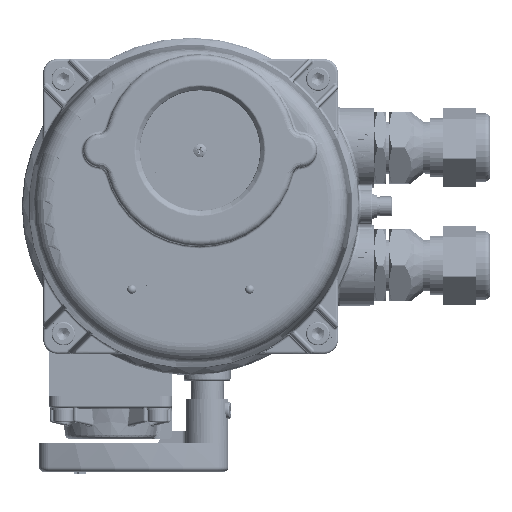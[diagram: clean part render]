
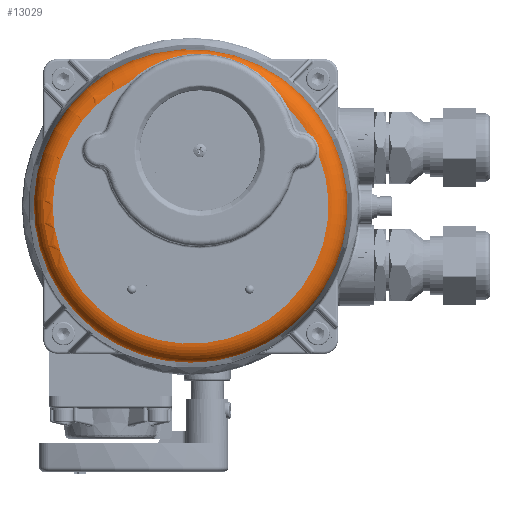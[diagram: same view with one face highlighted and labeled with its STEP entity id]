
A CAD part, top view. The second image highlights one B-rep face of the part: STEP entity #13029.
In plain terms, the highlighted toroidal (fillet/blend) face has major radius 58.491 mm and minor radius 8 mm.
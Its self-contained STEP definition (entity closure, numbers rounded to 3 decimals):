
#13029=ADVANCED_FACE('',(#57665,#57667),#57669,.T.);
#57665=FACE_BOUND('',#57666,.T.);
#57666=EDGE_LOOP('',(#103232,#103233,#103234,#103235,#103236));
#57667=FACE_BOUND('',#57668,.T.);
#57668=EDGE_LOOP('',(#103237,#103238,#103239));
#57669=TOROIDAL_SURFACE('',#57670,58.491,8.);
#57670=AXIS2_PLACEMENT_3D('',#57671,#57672,#57673);
#57671=CARTESIAN_POINT('',(-348.624,-37.619,68.195));
#57672=DIRECTION('',(0.,0.,1.));
#57673=DIRECTION('',(1.,0.,0.));
#103232=ORIENTED_EDGE('',*,*,#127742,.T.);
#103233=ORIENTED_EDGE('',*,*,#127741,.T.);
#103234=ORIENTED_EDGE('',*,*,#127727,.F.);
#103235=ORIENTED_EDGE('',*,*,#127779,.T.);
#103236=ORIENTED_EDGE('',*,*,#127717,.F.);
#103237=ORIENTED_EDGE('',*,*,#127780,.T.);
#103238=ORIENTED_EDGE('',*,*,#127781,.T.);
#103239=ORIENTED_EDGE('',*,*,#127782,.T.);
#127717=EDGE_CURVE('',#156490,#156493,#156494,.T.);
#127727=EDGE_CURVE('',#156503,#156506,#156508,.T.);
#127741=EDGE_CURVE('',#156528,#156506,#156529,.T.);
#127742=EDGE_CURVE('',#156490,#156528,#156530,.T.);
#127779=EDGE_CURVE('',#156503,#156493,#156603,.T.);
#127780=EDGE_CURVE('',#156604,#156605,#156606,.T.);
#127781=EDGE_CURVE('',#156605,#156607,#156608,.T.);
#127782=EDGE_CURVE('',#156607,#156604,#156609,.T.);
#156490=VERTEX_POINT('',#184193);
#156493=VERTEX_POINT('',#184202);
#156494=B_SPLINE_CURVE_WITH_KNOTS('',3,
(#184203,#184204,#184205,#184206,#184207,#184208,#184209,#184210,#184211,#184212,
#184213,#184214,#184215,#184216),
.UNSPECIFIED.,.F.,.F.,
(4,1,1,1,1,1,1,1,1,1,1,4),
(0.,0.134,0.234,0.301,0.376,0.45,
0.522,0.573,0.641,0.747,0.871,
1.),
.UNSPECIFIED.);
#156503=VERTEX_POINT('',#184260);
#156506=VERTEX_POINT('',#184269);
#156508=B_SPLINE_CURVE_WITH_KNOTS('',3,
(#184274,#184275,#184276,#184277,#184278,#184279,#184280,#184281,#184282,#184283,
#184284,#184285,#184286,#184287,#184288,#184289,#184290,#184291,#184292,#184293),
.UNSPECIFIED.,.F.,.F.,
(4,1,1,1,1,1,1,1,1,1,1,1,1,1,1,1,1,4),
(0.,0.057,0.108,0.165,0.224,0.29,
0.357,0.427,0.505,0.58,0.652,
0.711,0.766,0.82,0.871,0.913,
0.954,1.),
.UNSPECIFIED.);
#156528=VERTEX_POINT('',#184414);
#156529=CIRCLE('',#184415,58.491);
#156530=CIRCLE('',#184419,58.491);
#156603=CIRCLE('',#184571,58.491);
#156604=VERTEX_POINT('',#184575);
#156605=VERTEX_POINT('',#184576);
#156606=CIRCLE('',#184577,66.49);
#156607=VERTEX_POINT('',#184581);
#156608=CIRCLE('',#184582,66.49);
#156609=CIRCLE('',#184586,66.49);
#184193=CARTESIAN_POINT('',(-294.286,-15.968,76.195));
#184202=CARTESIAN_POINT('',(-298.965,-6.711,76.195));
#184203=CARTESIAN_POINT('',(-294.286,-15.968,76.195));
#184204=CARTESIAN_POINT('',(-294.201,-15.493,76.195));
#184205=CARTESIAN_POINT('',(-294.126,-14.638,76.174));
#184206=CARTESIAN_POINT('',(-294.198,-13.524,76.131));
#184207=CARTESIAN_POINT('',(-294.352,-12.635,76.097));
#184208=CARTESIAN_POINT('',(-294.561,-11.857,76.074));
#184209=CARTESIAN_POINT('',(-294.85,-11.08,76.06));
#184210=CARTESIAN_POINT('',(-295.171,-10.416,76.057));
#184211=CARTESIAN_POINT('',(-295.533,-9.797,76.063));
#184212=CARTESIAN_POINT('',(-296.012,-9.106,76.083));
#184213=CARTESIAN_POINT('',(-296.746,-8.264,76.124));
#184214=CARTESIAN_POINT('',(-297.757,-7.397,76.176));
#184215=CARTESIAN_POINT('',(-298.548,-6.916,76.195));
#184216=CARTESIAN_POINT('',(-298.965,-6.711,76.195));
#184260=CARTESIAN_POINT('',(-306.741,3.211,76.195));
#184269=CARTESIAN_POINT('',(-374.64,14.769,76.195));
#184274=CARTESIAN_POINT('',(-306.741,3.211,76.195));
#184275=CARTESIAN_POINT('',(-307.429,4.584,76.195));
#184276=CARTESIAN_POINT('',(-308.864,7.102,76.12));
#184277=CARTESIAN_POINT('',(-311.445,10.74,75.836));
#184278=CARTESIAN_POINT('',(-314.387,14.117,75.422));
#184279=CARTESIAN_POINT('',(-317.963,17.414,74.876));
#184280=CARTESIAN_POINT('',(-322.1,20.425,74.256));
#184281=CARTESIAN_POINT('',(-326.873,23.061,73.625));
#184282=CARTESIAN_POINT('',(-332.247,25.177,73.119));
#184283=CARTESIAN_POINT('',(-338.074,26.554,72.929));
#184284=CARTESIAN_POINT('',(-344.069,27.074,73.171));
#184285=CARTESIAN_POINT('',(-349.563,26.775,73.68));
#184286=CARTESIAN_POINT('',(-354.432,25.905,74.256));
#184287=CARTESIAN_POINT('',(-358.729,24.654,74.797));
#184288=CARTESIAN_POINT('',(-362.68,23.055,75.286));
#184289=CARTESIAN_POINT('',(-366.17,21.23,75.678));
#184290=CARTESIAN_POINT('',(-369.207,19.289,75.958));
#184291=CARTESIAN_POINT('',(-371.994,17.188,76.145));
#184292=CARTESIAN_POINT('',(-373.748,15.631,76.195));
#184293=CARTESIAN_POINT('',(-374.64,14.769,76.195));
#184414=CARTESIAN_POINT('',(-399.756,-9.216,76.195));
#184415=AXIS2_PLACEMENT_3D('',#184416,#184417,#184418);
#184416=CARTESIAN_POINT('',(-348.624,-37.619,76.195));
#184417=DIRECTION('',(0.,0.,-1.));
#184418=DIRECTION('',(-0.874,0.486,0.));
#184419=AXIS2_PLACEMENT_3D('',#184420,#184421,#184422);
#184420=CARTESIAN_POINT('',(-348.624,-37.619,76.195));
#184421=DIRECTION('',(0.,0.,-1.));
#184422=DIRECTION('',(0.929,0.37,0.));
#184571=AXIS2_PLACEMENT_3D('',#184572,#184573,#184574);
#184572=CARTESIAN_POINT('',(-348.624,-37.619,76.195));
#184573=DIRECTION('',(0.,0.,-1.));
#184574=DIRECTION('',(0.716,0.698,0.));
#184575=CARTESIAN_POINT('',(-348.624,-104.109,68.334));
#184576=CARTESIAN_POINT('',(-406.748,-5.332,68.334));
#184577=AXIS2_PLACEMENT_3D('',#184578,#184579,#184580);
#184578=CARTESIAN_POINT('',(-348.624,-37.619,68.334));
#184579=DIRECTION('',(0.,0.,1.));
#184580=DIRECTION('',(0.,-1.,0.));
#184581=CARTESIAN_POINT('',(-408.946,-65.586,68.334));
#184582=AXIS2_PLACEMENT_3D('',#184583,#184584,#184585);
#184583=CARTESIAN_POINT('',(-348.624,-37.619,68.334));
#184584=DIRECTION('',(0.,0.,1.));
#184585=DIRECTION('',(-0.874,0.486,0.));
#184586=AXIS2_PLACEMENT_3D('',#184587,#184588,#184589);
#184587=CARTESIAN_POINT('',(-348.624,-37.619,68.334));
#184588=DIRECTION('',(0.,0.,1.));
#184589=DIRECTION('',(-0.907,-0.421,0.));
